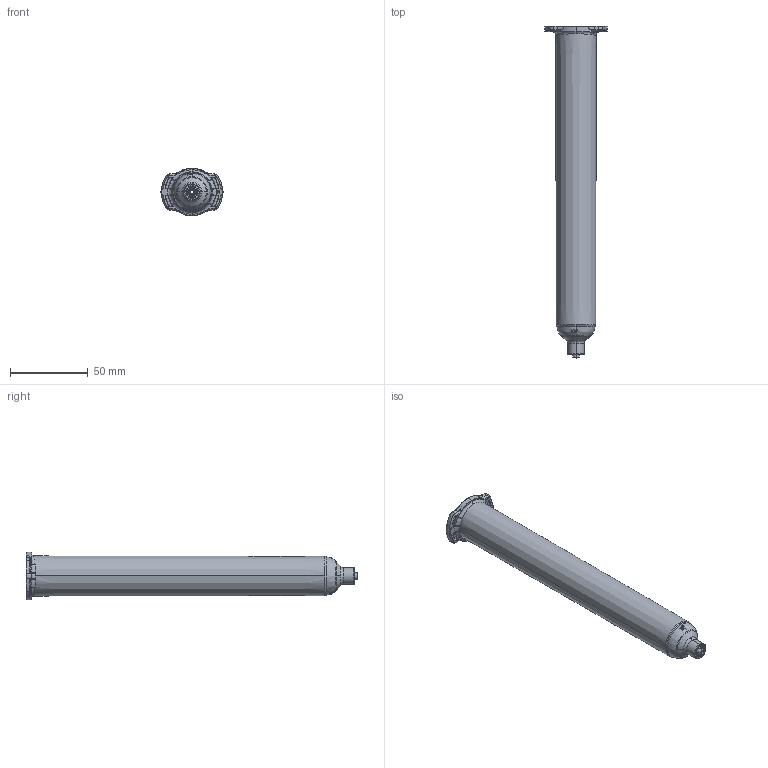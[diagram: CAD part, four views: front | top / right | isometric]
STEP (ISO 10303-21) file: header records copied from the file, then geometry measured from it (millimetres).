
FILE_DESCRIPTION (( 'STEP AP214' ), '1' );
FILE_NAME ('NORDSONEFD-7364911 BARREL O 70CC CL.STEP', '2021-10-12T15:06:57', ( '' ), ( '' ), 'SwSTEP 2.0', 'SolidWorks 2021', '' );
FILE_SCHEMA (( 'AUTOMOTIVE_DESIGN' ));
Length unit declared in the file: inch
Products named in the file (1): NORDSONEFD-7364911  BARREL O 70CC CL
Bounding box: 40.11 x 213.18 x 30.65 mm (x, y, z)
Volume: 25391.8 mm3; surface area: 32389.1 mm2
Topology: 1 solids, 1 shells, 545 faces, 1372 edges, 843 vertices
Faces by surface type: bspline 314, plane 144, cylinder 46, cone 41
Entity records: 24670 total; most frequent: CARTESIAN_POINT 13871, ORIENTED_EDGE 2736, DIRECTION 1515, EDGE_CURVE 1368, VERTEX_POINT 843, B_SPLINE_CURVE_WITH_KNOTS 566, EDGE_LOOP 565, ADVANCED_FACE 545
